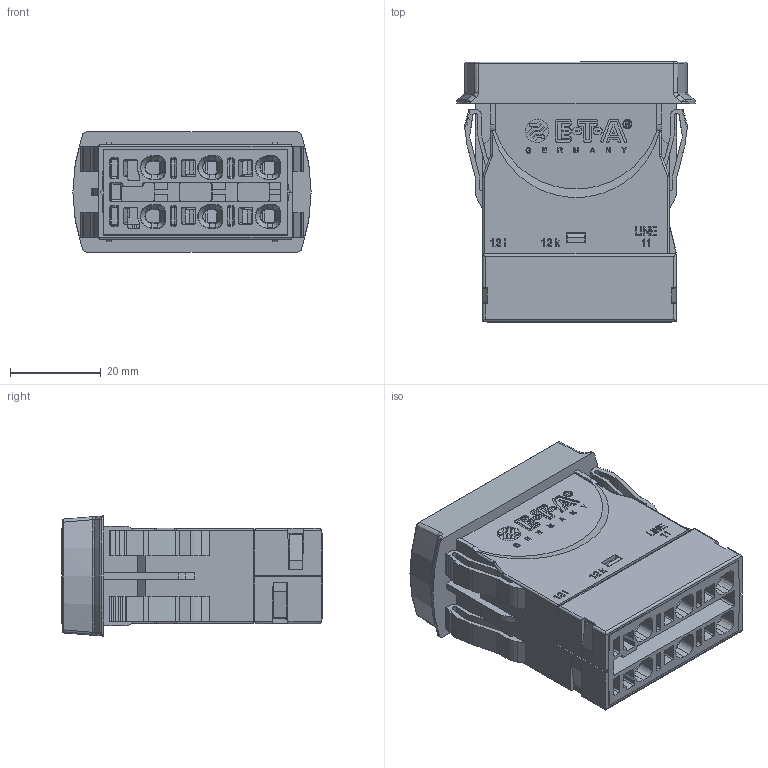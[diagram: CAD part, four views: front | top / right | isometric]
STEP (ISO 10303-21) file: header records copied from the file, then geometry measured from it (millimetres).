
FILE_DESCRIPTION((''),'2;1');
FILE_NAME('DUMMY-3120-N52F-PT','2019-08-06T16:03:09',('wschmidt'),(''),'CREO PARAMETRIC BY PTC INC, 2017260','CREO PARAMETRIC BY PTC INC, 2017260','');
FILE_SCHEMA(('AUTOMOTIVE_DESIGN { 1 0 10303 214 1 1 1 1 }'));
Products named in the file (1): DUMMY-3120-N52F-PT
Bounding box: 52.4 x 57.17 x 26.43 mm (x, y, z)
Volume: 43272.2 mm3; surface area: 28266.2 mm2
Topology: 1 solids, 14 shells, 3657 faces, 9892 edges, 6340 vertices
Faces by surface type: plane 1841, extrusion 834, cylinder 577, bspline 217, cone 67, sphere 66, torus 55
Entity records: 132476 total; most frequent: CARTESIAN_POINT 44965, ORIENTED_EDGE 19776, DIRECTION 14360, EDGE_CURVE 9888, VECTOR 7178, LINE 6344, VERTEX_POINT 6340, EDGE_LOOP 3878
